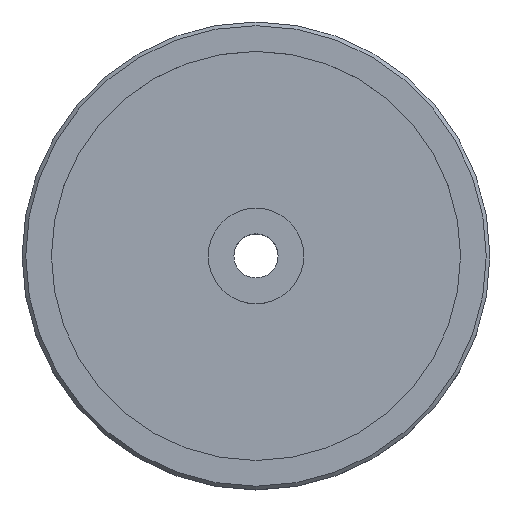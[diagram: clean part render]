
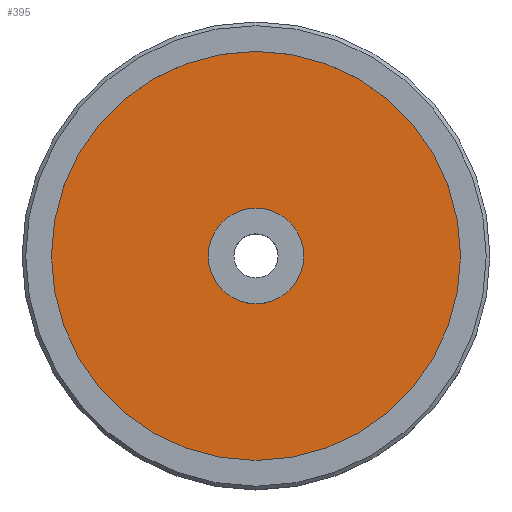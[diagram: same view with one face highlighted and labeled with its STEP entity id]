
A CAD part, top view. The second image highlights one B-rep face of the part: STEP entity #395.
In plain terms, the highlighted planar face has unit normal (0, 0, 1).
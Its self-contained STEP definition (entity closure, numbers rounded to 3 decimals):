
#239 = CYLINDRICAL_SURFACE('',#240,27.831);
#240 = AXIS2_PLACEMENT_3D('',#241,#242,#243);
#241 = CARTESIAN_POINT('',(0.,0.,13.28));
#242 = DIRECTION('',(-0.,-0.,-1.));
#243 = DIRECTION('',(1.,0.,0.));
#289 = EDGE_CURVE('',#290,#290,#292,.T.);
#290 = VERTEX_POINT('',#291);
#291 = CARTESIAN_POINT('',(27.831,0.,13.28));
#292 = SURFACE_CURVE('',#293,(#298,#305),.PCURVE_S1.);
#293 = CIRCLE('',#294,27.831);
#294 = AXIS2_PLACEMENT_3D('',#295,#296,#297);
#295 = CARTESIAN_POINT('',(0.,0.,13.28));
#296 = DIRECTION('',(0.,0.,1.));
#297 = DIRECTION('',(1.,0.,0.));
#298 = PCURVE('',#239,#299);
#299 = DEFINITIONAL_REPRESENTATION('',(#300),#304);
#300 = LINE('',#301,#302);
#301 = CARTESIAN_POINT('',(-0.,0.));
#302 = VECTOR('',#303,1.);
#303 = DIRECTION('',(-1.,0.));
#304 = ( GEOMETRIC_REPRESENTATION_CONTEXT(2) 
PARAMETRIC_REPRESENTATION_CONTEXT() REPRESENTATION_CONTEXT('2D SPACE',''
  ) );
#305 = PCURVE('',#306,#311);
#306 = PLANE('',#307);
#307 = AXIS2_PLACEMENT_3D('',#308,#309,#310);
#308 = CARTESIAN_POINT('',(0.,0.,13.28)
  );
#309 = DIRECTION('',(0.,0.,1.));
#310 = DIRECTION('',(1.,0.,-0.));
#311 = DEFINITIONAL_REPRESENTATION('',(#312),#316);
#312 = CIRCLE('',#313,27.831);
#313 = AXIS2_PLACEMENT_2D('',#314,#315);
#314 = CARTESIAN_POINT('',(0.,0.));
#315 = DIRECTION('',(1.,0.));
#316 = ( GEOMETRIC_REPRESENTATION_CONTEXT(2) 
PARAMETRIC_REPRESENTATION_CONTEXT() REPRESENTATION_CONTEXT('2D SPACE',''
  ) );
#395 = ADVANCED_FACE('',(#396,#399),#306,.T.);
#396 = FACE_BOUND('',#397,.T.);
#397 = EDGE_LOOP('',(#398));
#398 = ORIENTED_EDGE('',*,*,#289,.T.);
#399 = FACE_BOUND('',#400,.T.);
#400 = EDGE_LOOP('',(#401));
#401 = ORIENTED_EDGE('',*,*,#402,.F.);
#402 = EDGE_CURVE('',#403,#403,#405,.T.);
#403 = VERTEX_POINT('',#404);
#404 = CARTESIAN_POINT('',(6.5,0.,13.28));
#405 = SURFACE_CURVE('',#406,(#411,#418),.PCURVE_S1.);
#406 = CIRCLE('',#407,6.5);
#407 = AXIS2_PLACEMENT_3D('',#408,#409,#410);
#408 = CARTESIAN_POINT('',(0.,0.,13.28)
  );
#409 = DIRECTION('',(0.,0.,1.));
#410 = DIRECTION('',(1.,0.,0.));
#411 = PCURVE('',#306,#412);
#412 = DEFINITIONAL_REPRESENTATION('',(#413),#417);
#413 = CIRCLE('',#414,6.5);
#414 = AXIS2_PLACEMENT_2D('',#415,#416);
#415 = CARTESIAN_POINT('',(0.,0.));
#416 = DIRECTION('',(1.,0.));
#417 = ( GEOMETRIC_REPRESENTATION_CONTEXT(2) 
PARAMETRIC_REPRESENTATION_CONTEXT() REPRESENTATION_CONTEXT('2D SPACE',''
  ) );
#418 = PCURVE('',#419,#424);
#419 = CYLINDRICAL_SURFACE('',#420,6.5);
#420 = AXIS2_PLACEMENT_3D('',#421,#422,#423);
#421 = CARTESIAN_POINT('',(0.,0.,13.28)
  );
#422 = DIRECTION('',(-0.,-0.,-1.));
#423 = DIRECTION('',(1.,0.,0.));
#424 = DEFINITIONAL_REPRESENTATION('',(#425),#429);
#425 = LINE('',#426,#427);
#426 = CARTESIAN_POINT('',(-0.,0.));
#427 = VECTOR('',#428,1.);
#428 = DIRECTION('',(-1.,0.));
#429 = ( GEOMETRIC_REPRESENTATION_CONTEXT(2) 
PARAMETRIC_REPRESENTATION_CONTEXT() REPRESENTATION_CONTEXT('2D SPACE',''
  ) );
